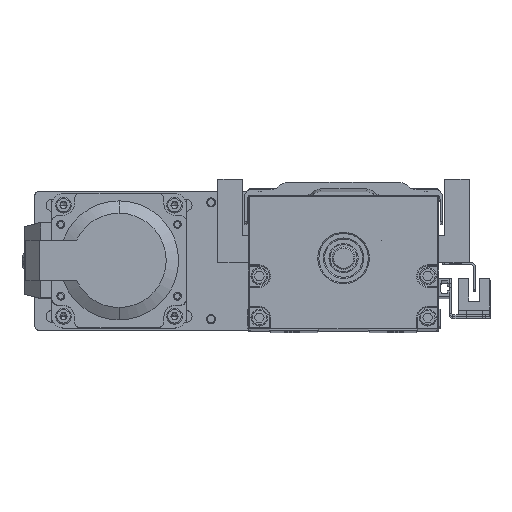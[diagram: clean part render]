
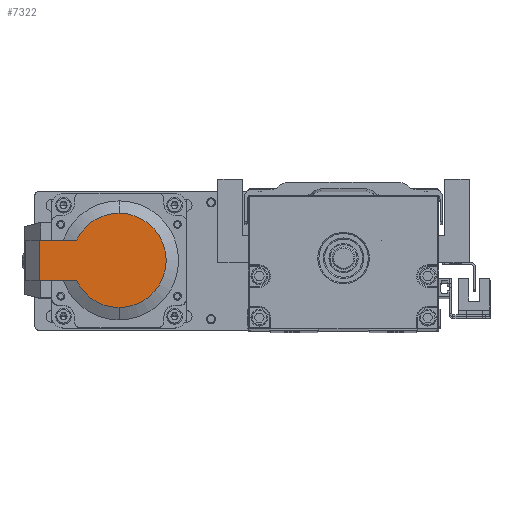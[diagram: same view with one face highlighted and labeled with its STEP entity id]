
A CAD part, top view. The second image highlights one B-rep face of the part: STEP entity #7322.
In plain terms, the highlighted planar face has unit normal (0, 0, 1).
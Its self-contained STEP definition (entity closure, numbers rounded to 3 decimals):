
#403 = CARTESIAN_POINT ( 'NONE',  ( 85.777, 33.277, 500.168 ) ) ;
#1826 = PLANE ( 'NONE',  #109742 ) ;
#7322 = ADVANCED_FACE ( 'NONE', ( #33722 ), #1826, .T. ) ;
#8426 = DIRECTION ( 'NONE',  ( 1., 0., 0. ) ) ;
#9175 = ORIENTED_EDGE ( 'NONE', *, *, #34486, .F. ) ;
#10234 = DIRECTION ( 'NONE',  ( 0., 0., 1. ) ) ;
#10723 = DIRECTION ( 'NONE',  ( 0., 1., 0. ) ) ;
#11068 = AXIS2_PLACEMENT_3D ( 'NONE', #41027, #54226, #132420 ) ;
#11691 = DIRECTION ( 'NONE',  ( 0., 0., 1. ) ) ;
#14517 = ORIENTED_EDGE ( 'NONE', *, *, #59685, .T. ) ;
#18647 = CARTESIAN_POINT ( 'NONE',  ( 85.777, 33.277, 500.168 ) ) ;
#19830 = VERTEX_POINT ( 'NONE', #111510 ) ;
#21108 = CARTESIAN_POINT ( 'NONE',  ( 104.751, 3.277, 500.168 ) ) ;
#22241 = CARTESIAN_POINT ( 'NONE',  ( 85.777, -8.723, 500.168 ) ) ;
#24031 = CARTESIAN_POINT ( 'NONE',  ( 121.36, 21.277, 500.168 ) ) ;
#24857 = EDGE_CURVE ( 'NONE', #59229, #19830, #125044, .T. ) ;
#26080 = ORIENTED_EDGE ( 'NONE', *, *, #85485, .T. ) ;
#27516 = CIRCLE ( 'NONE', #38138, 21. ) ;
#28160 = CARTESIAN_POINT ( 'NONE',  ( 121.36, 3.277, 500.168 ) ) ;
#32732 = DIRECTION ( 'NONE',  ( 0., 1., 0. ) ) ;
#33722 = FACE_OUTER_BOUND ( 'NONE', #44212, .T. ) ;
#34103 = VERTEX_POINT ( 'NONE', #22241 ) ;
#34486 = EDGE_CURVE ( 'NONE', #70379, #58672, #115740, .T. ) ;
#37326 = CIRCLE ( 'NONE', #132075, 21. ) ;
#38138 = AXIS2_PLACEMENT_3D ( 'NONE', #78213, #11691, #32732 ) ;
#40250 = DIRECTION ( 'NONE',  ( 0., -1., 0. ) ) ;
#41027 = CARTESIAN_POINT ( 'NONE',  ( 85.777, 12.277, 500.168 ) ) ;
#44212 = EDGE_LOOP ( 'NONE', ( #9175, #125236, #26080, #14517, #48788, #112034 ) ) ;
#45889 = DIRECTION ( 'NONE',  ( 0., 0., 1. ) ) ;
#47627 = VECTOR ( 'NONE', #8426, 1000. ) ;
#48788 = ORIENTED_EDGE ( 'NONE', *, *, #24857, .T. ) ;
#49815 = VECTOR ( 'NONE', #40250, 1000. ) ;
#54226 = DIRECTION ( 'NONE',  ( 0., 0., 1. ) ) ;
#58672 = VERTEX_POINT ( 'NONE', #24031 ) ;
#59229 = VERTEX_POINT ( 'NONE', #21108 ) ;
#59685 = EDGE_CURVE ( 'NONE', #34103, #59229, #88354, .T. ) ;
#70379 = VERTEX_POINT ( 'NONE', #74873 ) ;
#74352 = LINE ( 'NONE', #106251, #49815 ) ;
#74873 = CARTESIAN_POINT ( 'NONE',  ( 104.751, 21.277, 500.168 ) ) ;
#75469 = CARTESIAN_POINT ( 'NONE',  ( 121.36, 21.277, 500.168 ) ) ;
#78213 = CARTESIAN_POINT ( 'NONE',  ( 85.777, 12.277, 500.168 ) ) ;
#85485 = EDGE_CURVE ( 'NONE', #106925, #34103, #27516, .T. ) ;
#86559 = VECTOR ( 'NONE', #97119, 1000. ) ;
#88354 = CIRCLE ( 'NONE', #11068, 21. ) ;
#97119 = DIRECTION ( 'NONE',  ( 1., 0., 0. ) ) ;
#100240 = CARTESIAN_POINT ( 'NONE',  ( 85.777, 12.277, 500.168 ) ) ;
#101152 = DIRECTION ( 'NONE',  ( 0., 1., 0. ) ) ;
#106251 = CARTESIAN_POINT ( 'NONE',  ( 121.36, 21.277, 500.168 ) ) ;
#106925 = VERTEX_POINT ( 'NONE', #18647 ) ;
#109742 = AXIS2_PLACEMENT_3D ( 'NONE', #403, #45889, #101152 ) ;
#111510 = CARTESIAN_POINT ( 'NONE',  ( 121.36, 3.277, 500.168 ) ) ;
#112034 = ORIENTED_EDGE ( 'NONE', *, *, #126731, .F. ) ;
#115266 = EDGE_CURVE ( 'NONE', #70379, #106925, #37326, .T. ) ;
#115740 = LINE ( 'NONE', #75469, #47627 ) ;
#125044 = LINE ( 'NONE', #28160, #86559 ) ;
#125236 = ORIENTED_EDGE ( 'NONE', *, *, #115266, .T. ) ;
#126731 = EDGE_CURVE ( 'NONE', #58672, #19830, #74352, .T. ) ;
#132075 = AXIS2_PLACEMENT_3D ( 'NONE', #100240, #10234, #10723 ) ;
#132420 = DIRECTION ( 'NONE',  ( 0., 1., 0. ) ) ;
